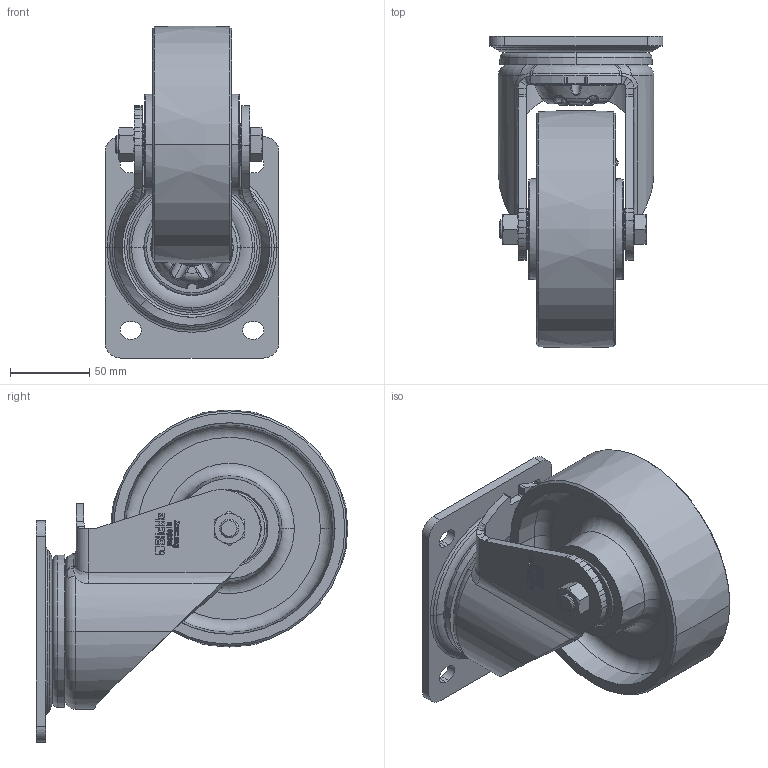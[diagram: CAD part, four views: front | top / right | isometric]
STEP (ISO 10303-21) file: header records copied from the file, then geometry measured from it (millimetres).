
FILE_DESCRIPTION (( 'STEP AP214' ), '1' );
FILE_NAME ('LH-G_150K_013557-214.step', '2021-12-30T11:13:06', ( '' ), ( '' ), 'SwSTEP 2.0', 'SolidWorks 2018', '' );
FILE_SCHEMA (( 'AUTOMOTIVE_DESIGN' ));
Length unit declared in the file: millimetre
Products named in the file (5): G_150_20K_G16_3D; G_3D_G16_G_150_20K_017855; GH-LH_150-160_GH-LH-160x60-03_20x60; GH-LH-160x60-03_20x60_G16_3D; LH-G_150K_013557-214
Assembly tree (4 placements, depth 3):
  LH-G_150K_013557-214
    GH-LH_150-160_GH-LH-160x60-03_20x60
      GH-LH-160x60-03_20x60_G16_3D
    G_3D_G16_G_150_20K_017855
      G_150_20K_G16_3D
Bounding box: 110 x 196.93 x 209.93 mm (x, y, z)
Volume: 804843.9 mm3; surface area: 207150.8 mm2
Topology: 2 solids, 5 shells, 1618 faces, 4184 edges, 2701 vertices
Faces by surface type: plane 662, bspline 594, torus 148, cylinder 128, cone 82, sphere 4
Entity records: 65244 total; most frequent: CARTESIAN_POINT 24290, ORIENTED_EDGE 8354, DIRECTION 5655, EDGE_CURVE 4177, VERTEX_POINT 2700, VECTOR 2203, LINE 2203, EDGE_LOOP 1767
